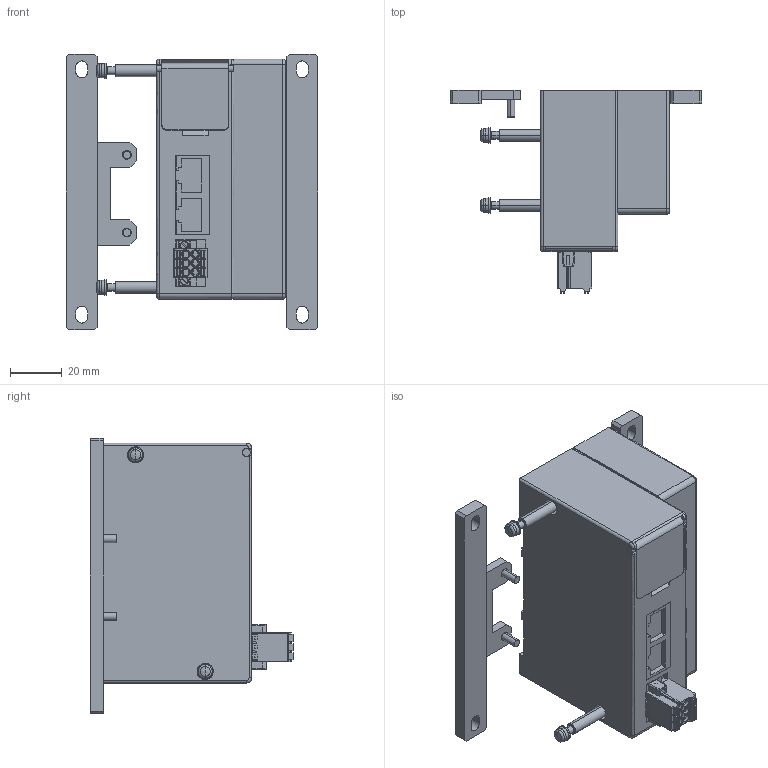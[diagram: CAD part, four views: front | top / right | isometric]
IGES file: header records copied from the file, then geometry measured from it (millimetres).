
Start section: ------------------------------------------------------------------------
Bounding box: 97.5 x 78.8 x 107 mm (x, y, z)
Volume: 269284 mm3; surface area: 41844.2 mm2
Topology: 3 solids, 3 shells, 825 faces, 2127 edges, 1359 vertices
Faces by surface type: bspline 825
